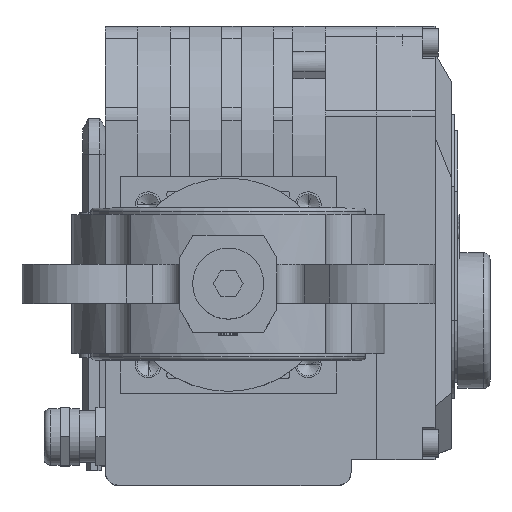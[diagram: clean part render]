
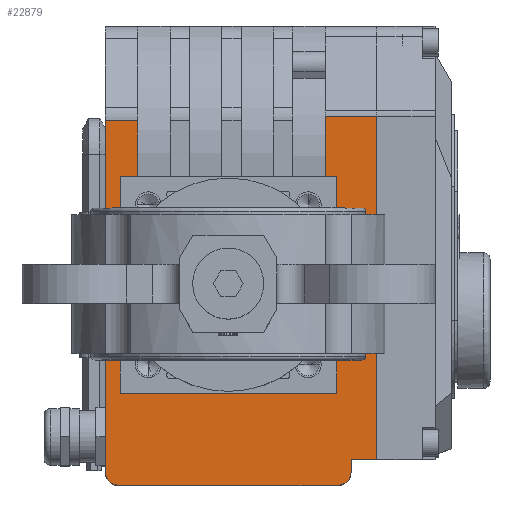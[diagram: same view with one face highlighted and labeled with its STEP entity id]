
A CAD part, top view. The second image highlights one B-rep face of the part: STEP entity #22879.
In plain terms, the highlighted planar face has unit normal (0, 0, 1) as drawn and (0, -1, 0) by its records, which use the part's own axes.
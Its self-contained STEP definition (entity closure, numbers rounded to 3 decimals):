
#17852=DIRECTION('',(1.,0.,0.));
#17853=VECTOR('',#17852,108.749);
#17854=CARTESIAN_POINT('',(-47.,-36.5,0.));
#17855=LINE('',#17854,#17853);
#18279=DIRECTION('',(-1.,0.,0.));
#18280=VECTOR('',#18279,18.604);
#18281=CARTESIAN_POINT('',(63.104,-36.5,-68.));
#18282=LINE('',#18281,#18280);
#18539=DIRECTION('',(0.,0.,1.));
#18540=VECTOR('',#18539,16.);
#18541=CARTESIAN_POINT('',(63.104,-36.5,-84.));
#18542=LINE('',#18541,#18540);
#18543=DIRECTION('',(-1.,0.,0.));
#18544=VECTOR('',#18543,106.104);
#18545=CARTESIAN_POINT('',(63.104,-36.5,-84.));
#18546=LINE('',#18545,#18544);
#18547=CARTESIAN_POINT('',(-47.,-36.5,-72.));
#18548=DIRECTION('',(0.,-1.,0.));
#18549=DIRECTION('',(-1.,0.,0.));
#18550=AXIS2_PLACEMENT_3D('',#18547,#18548,#18549);
#18552=DIRECTION('',(0.,0.,-1.));
#18553=VECTOR('',#18552,68.);
#18554=CARTESIAN_POINT('',(-51.,-36.5,-4.));
#18555=LINE('',#18554,#18553);
#18556=CARTESIAN_POINT('',(-47.,-36.5,-4.));
#18557=DIRECTION('',(0.,-1.,0.));
#18558=DIRECTION('',(0.,0.,1.));
#18559=AXIS2_PLACEMENT_3D('',#18556,#18557,#18558);
#18561=DIRECTION('',(0.,0.,1.));
#18562=VECTOR('',#18561,10.);
#18563=CARTESIAN_POINT('',(61.749,-36.5,-10.));
#18564=LINE('',#18563,#18562);
#18565=DIRECTION('',(-1.,0.,0.));
#18566=VECTOR('',#18565,17.249);
#18567=CARTESIAN_POINT('',(61.749,-36.5,-10.));
#18568=LINE('',#18567,#18566);
#18569=DIRECTION('',(0.,0.,1.));
#18570=VECTOR('',#18569,5.5);
#18571=CARTESIAN_POINT('',(44.5,-36.5,-10.));
#18572=LINE('',#18571,#18570);
#18573=DIRECTION('',(-1.,0.,0.));
#18574=VECTOR('',#18573,67.);
#18575=CARTESIAN_POINT('',(44.5,-36.5,-4.5));
#18576=LINE('',#18575,#18574);
#18577=DIRECTION('',(0.,0.,-1.));
#18578=VECTOR('',#18577,67.);
#18579=CARTESIAN_POINT('',(-22.5,-36.5,-4.5));
#18580=LINE('',#18579,#18578);
#18581=DIRECTION('',(1.,0.,0.));
#18582=VECTOR('',#18581,67.);
#18583=CARTESIAN_POINT('',(-22.5,-36.5,-71.5));
#18584=LINE('',#18583,#18582);
#18585=DIRECTION('',(0.,0.,1.));
#18586=VECTOR('',#18585,3.5);
#18587=CARTESIAN_POINT('',(44.5,-36.5,-71.5));
#18588=LINE('',#18587,#18586);
#18878=DIRECTION('',(1.,0.,0.));
#18879=VECTOR('',#18878,4.);
#18880=CARTESIAN_POINT('',(-47.,-36.5,-76.));
#18881=LINE('',#18880,#18879);
#18914=DIRECTION('',(0.,0.,-1.));
#18915=VECTOR('',#18914,8.);
#18916=CARTESIAN_POINT('',(-43.,-36.5,-76.));
#18917=LINE('',#18916,#18915);
#21086=CARTESIAN_POINT('',(-43.,-36.5,-84.));
#21088=VERTEX_POINT('',#21086);
#21090=CARTESIAN_POINT('',(-43.,-36.5,-76.));
#21092=VERTEX_POINT('',#21090);
#21094=CARTESIAN_POINT('',(-47.,-36.5,0.));
#21095=CARTESIAN_POINT('',(-51.,-36.5,-4.));
#21096=VERTEX_POINT('',#21094);
#21097=VERTEX_POINT('',#21095);
#21106=CARTESIAN_POINT('',(-51.,-36.5,-72.));
#21107=CARTESIAN_POINT('',(-47.,-36.5,-76.));
#21108=VERTEX_POINT('',#21106);
#21109=VERTEX_POINT('',#21107);
#21138=CARTESIAN_POINT('',(61.749,-36.5,0.));
#21140=VERTEX_POINT('',#21138);
#21282=CARTESIAN_POINT('',(61.749,-36.5,-10.));
#21283=VERTEX_POINT('',#21282);
#21378=CARTESIAN_POINT('',(-22.5,-36.5,-4.5));
#21379=CARTESIAN_POINT('',(-22.5,-36.5,-71.5));
#21380=VERTEX_POINT('',#21378);
#21381=VERTEX_POINT('',#21379);
#21382=CARTESIAN_POINT('',(44.5,-36.5,-71.5));
#21383=VERTEX_POINT('',#21382);
#21384=CARTESIAN_POINT('',(44.5,-36.5,-68.));
#21385=VERTEX_POINT('',#21384);
#21398=CARTESIAN_POINT('',(44.5,-36.5,-10.));
#21399=CARTESIAN_POINT('',(44.5,-36.5,-4.5));
#21400=VERTEX_POINT('',#21398);
#21401=VERTEX_POINT('',#21399);
#22074=CARTESIAN_POINT('',(63.104,-36.5,-68.));
#22076=VERTEX_POINT('',#22074);
#22080=CARTESIAN_POINT('',(63.104,-36.5,-84.));
#22081=VERTEX_POINT('',#22080);
#22844=CARTESIAN_POINT('',(-51.,-36.5,0.));
#22845=DIRECTION('',(0.,-1.,0.));
#22846=DIRECTION('',(1.,0.,0.));
#22847=AXIS2_PLACEMENT_3D('',#22844,#22845,#22846);
#22848=PLANE('',#22847);
#22850=ORIENTED_EDGE('',*,*,#22849,.F.);
#22852=ORIENTED_EDGE('',*,*,#22851,.T.);
#22854=ORIENTED_EDGE('',*,*,#22853,.F.);
#22856=ORIENTED_EDGE('',*,*,#22855,.F.);
#22858=ORIENTED_EDGE('',*,*,#22857,.F.);
#22860=ORIENTED_EDGE('',*,*,#22859,.F.);
#22861=ORIENTED_EDGE('',*,*,#22789,.F.);
#22862=ORIENTED_EDGE('',*,*,#22101,.T.);
#22864=ORIENTED_EDGE('',*,*,#22863,.F.);
#22865=ORIENTED_EDGE('',*,*,#22243,.T.);
#22867=ORIENTED_EDGE('',*,*,#22866,.T.);
#22869=ORIENTED_EDGE('',*,*,#22868,.T.);
#22871=ORIENTED_EDGE('',*,*,#22870,.T.);
#22873=ORIENTED_EDGE('',*,*,#22872,.T.);
#22875=ORIENTED_EDGE('',*,*,#22874,.T.);
#22876=ORIENTED_EDGE('',*,*,#22505,.F.);
#22877=EDGE_LOOP('',(#22850,#22852,#22854,#22856,#22858,#22860,#22861,#22862,
#22864,#22865,#22867,#22869,#22871,#22873,#22875,#22876));
#22878=FACE_OUTER_BOUND('',#22877,.F.);
#22879=ADVANCED_FACE('',(#22878),#22848,.T.);
#18551=CIRCLE('',#18550,4.);
#18560=CIRCLE('',#18559,4.);
#22101=EDGE_CURVE('',#21096,#21140,#17855,.T.);
#22243=EDGE_CURVE('',#21283,#21400,#18568,.T.);
#22505=EDGE_CURVE('',#22076,#21385,#18282,.T.);
#22789=EDGE_CURVE('',#21096,#21097,#18560,.T.);
#22849=EDGE_CURVE('',#22081,#22076,#18542,.T.);
#22851=EDGE_CURVE('',#22081,#21088,#18546,.T.);
#22853=EDGE_CURVE('',#21092,#21088,#18917,.T.);
#22855=EDGE_CURVE('',#21109,#21092,#18881,.T.);
#22857=EDGE_CURVE('',#21108,#21109,#18551,.T.);
#22859=EDGE_CURVE('',#21097,#21108,#18555,.T.);
#22863=EDGE_CURVE('',#21283,#21140,#18564,.T.);
#22866=EDGE_CURVE('',#21400,#21401,#18572,.T.);
#22868=EDGE_CURVE('',#21401,#21380,#18576,.T.);
#22870=EDGE_CURVE('',#21380,#21381,#18580,.T.);
#22872=EDGE_CURVE('',#21381,#21383,#18584,.T.);
#22874=EDGE_CURVE('',#21383,#21385,#18588,.T.);
